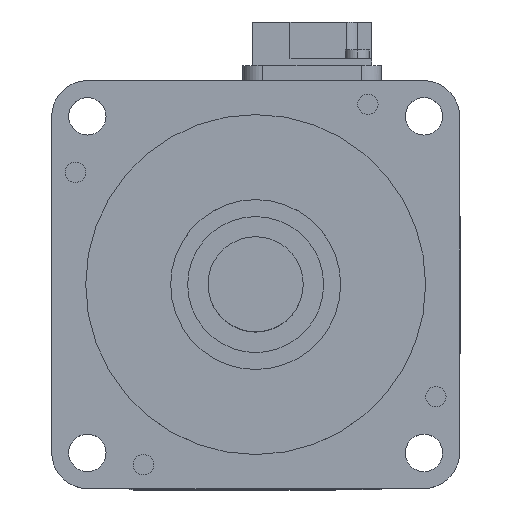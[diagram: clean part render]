
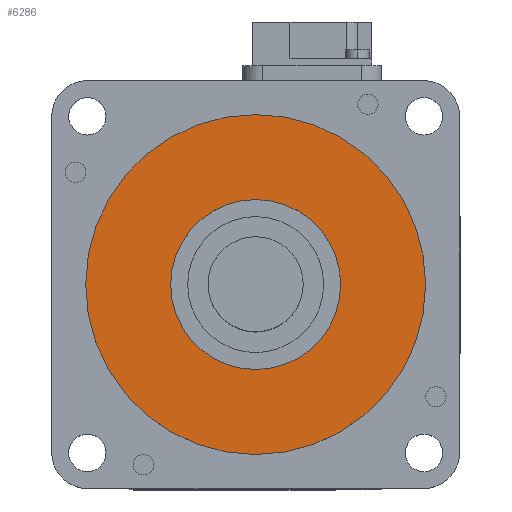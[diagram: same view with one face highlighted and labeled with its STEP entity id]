
A CAD part, top view. The second image highlights one B-rep face of the part: STEP entity #6286.
In plain terms, the highlighted planar face has unit normal (0, 0, 1).
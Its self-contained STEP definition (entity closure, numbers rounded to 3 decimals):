
#143 = EDGE_CURVE ( 'NONE', #144, #149, #6680, .T. ) ;
#144 = VERTEX_POINT ( 'NONE', #6736 ) ;
#149 = VERTEX_POINT ( 'NONE', #6731 ) ;
#173 = EDGE_CURVE ( 'NONE', #306, #174, #6750, .T. ) ;
#174 = VERTEX_POINT ( 'NONE', #6745 ) ;
#306 = VERTEX_POINT ( 'NONE', #6994 ) ;
#6286 = ADVANCED_FACE ( 'NONE', ( #16707, #16706 ), #16704, .T. ) ;
#6287 = EDGE_LOOP ( 'NONE', ( #6288, #6339 ) ) ;
#6288 = ORIENTED_EDGE ( 'NONE', *, *, #6289, .T. ) ;
#6289 = EDGE_CURVE ( 'NONE', #174, #306, #16765, .T. ) ;
#6339 = ORIENTED_EDGE ( 'NONE', *, *, #173, .T. ) ;
#6340 = EDGE_LOOP ( 'NONE', ( #6341, #6342 ) ) ;
#6341 = ORIENTED_EDGE ( 'NONE', *, *, #143, .F. ) ;
#6342 = ORIENTED_EDGE ( 'NONE', *, *, #6343, .F. ) ;
#6343 = EDGE_CURVE ( 'NONE', #149, #144, #16812, .T. ) ;
#6677 = DIRECTION ( 'NONE',  ( 0., 0., -1. ) ) ;
#6678 = CARTESIAN_POINT ( 'NONE',  ( 0., 0., 3. ) ) ;
#6679 = AXIS2_PLACEMENT_3D ( 'NONE', #6678, #6677, #6737 ) ;
#6680 = CIRCLE ( 'NONE', #6679, 25. ) ;
#6731 = CARTESIAN_POINT ( 'NONE',  ( 25., 0., 3. ) ) ;
#6736 = CARTESIAN_POINT ( 'NONE',  ( -25., 0., 3. ) ) ;
#6737 = DIRECTION ( 'NONE',  ( -1., 0., 0. ) ) ;
#6745 = CARTESIAN_POINT ( 'NONE',  ( -12.5, 0., 3. ) ) ;
#6746 = DIRECTION ( 'NONE',  ( -1., 0., 0. ) ) ;
#6747 = DIRECTION ( 'NONE',  ( 0., 0., -1. ) ) ;
#6748 = CARTESIAN_POINT ( 'NONE',  ( 0., 0., 3. ) ) ;
#6749 = AXIS2_PLACEMENT_3D ( 'NONE', #6748, #6747, #6746 ) ;
#6750 = CIRCLE ( 'NONE', #6749, 12.5 ) ;
#6994 = CARTESIAN_POINT ( 'NONE',  ( 12.5, 0., 3. ) ) ;
#16700 = DIRECTION ( 'NONE',  ( 1., 0., 0. ) ) ;
#16701 = DIRECTION ( 'NONE',  ( 0., 0., 1. ) ) ;
#16702 = CARTESIAN_POINT ( 'NONE',  ( 0., 25., 3. ) ) ;
#16703 = AXIS2_PLACEMENT_3D ( 'NONE', #16702, #16701, #16700 ) ;
#16704 = PLANE ( 'NONE',  #16703 ) ;
#16705 = CARTESIAN_POINT ( 'NONE',  ( 0., 0., 3. ) ) ;
#16706 = FACE_OUTER_BOUND ( 'NONE', #6340, .T. ) ;
#16707 = FACE_BOUND ( 'NONE', #6287, .T. ) ;
#16762 = DIRECTION ( 'NONE',  ( -1., 0., 0. ) ) ;
#16763 = DIRECTION ( 'NONE',  ( 0., 0., -1. ) ) ;
#16764 = AXIS2_PLACEMENT_3D ( 'NONE', #16705, #16763, #16762 ) ;
#16765 = CIRCLE ( 'NONE', #16764, 12.5 ) ;
#16809 = DIRECTION ( 'NONE',  ( -1., 0., 0. ) ) ;
#16810 = DIRECTION ( 'NONE',  ( 0., 0., -1. ) ) ;
#16811 = AXIS2_PLACEMENT_3D ( 'NONE', #16817, #16810, #16809 ) ;
#16812 = CIRCLE ( 'NONE', #16811, 25. ) ;
#16817 = CARTESIAN_POINT ( 'NONE',  ( 0., 0., 3. ) ) ;
